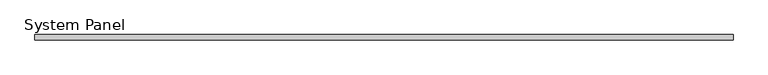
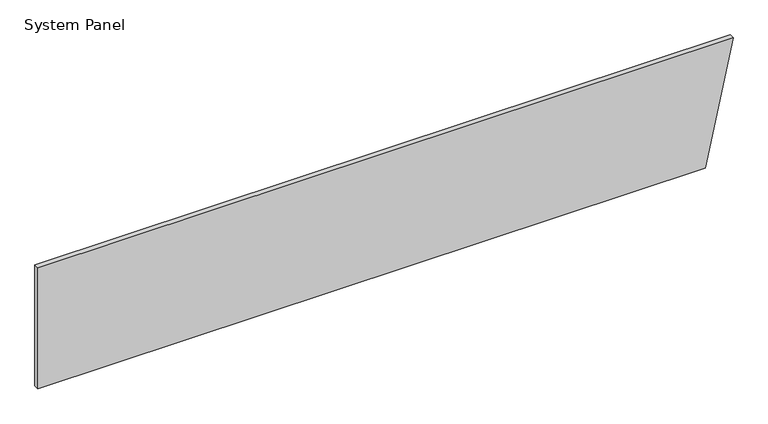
"""IFC4 building model written with IfcOpenShell, lengths in millimetres: plate geometry, System Panel : Equitilt_FlameGuard_50mm_Plain_Surfmist."""

from ifc_helpers import new_model, si_unit, frame, origin, place, context, project, spatial, polyline, outline, extrude, source, transform, mapped, element, save


def system_panel_32c90c44(model_context):
    return source(origin(), model_context, "Body", "SweptSolid", [
        extrude(outline(polyline([(0.0, -3255.8716619), (0.0, 2995.0), (1200.0, 3255.8716619), (1200.0, -3255.8716619), (0.0, -3255.8716619)])), frame((0.0, -50.0, 0.0), z_axis=(0.0, 1.0, 0.0), x_axis=(0.0, 0.0, 1.0)), (0.0, 0.0, 1.0), 50.0),
    ])


if __name__ == "__main__":
    model = new_model("IFC4")
    model_context = context("Model", 3, world=origin())
    ifc_project = project(units=[si_unit("LENGTHUNIT", "METRE", prefix="MILLI")], contexts=[model_context])
    site = spatial("IfcSite", under=ifc_project)
    building = spatial("IfcBuilding", under=site)
    placement = place(None, origin())
    system_panel_shape = system_panel_32c90c44(model_context)
    element("IfcPlate", 1, ObjectType="System Panel : Equitilt_FlameGuard_50mm_Plain_Surfmist", at=placement, inside=building, context=model_context, shape_type="MappedRepresentation", body=[
        mapped(system_panel_shape, transform((0.0, 0.0, 0.0), x_axis=(1.0, 0.0, 0.0), y_axis=(0.0, 1.0, 0.0), z_axis=(0.0, 0.0, 1.0))),
    ])
    save(model, "model.ifc")
